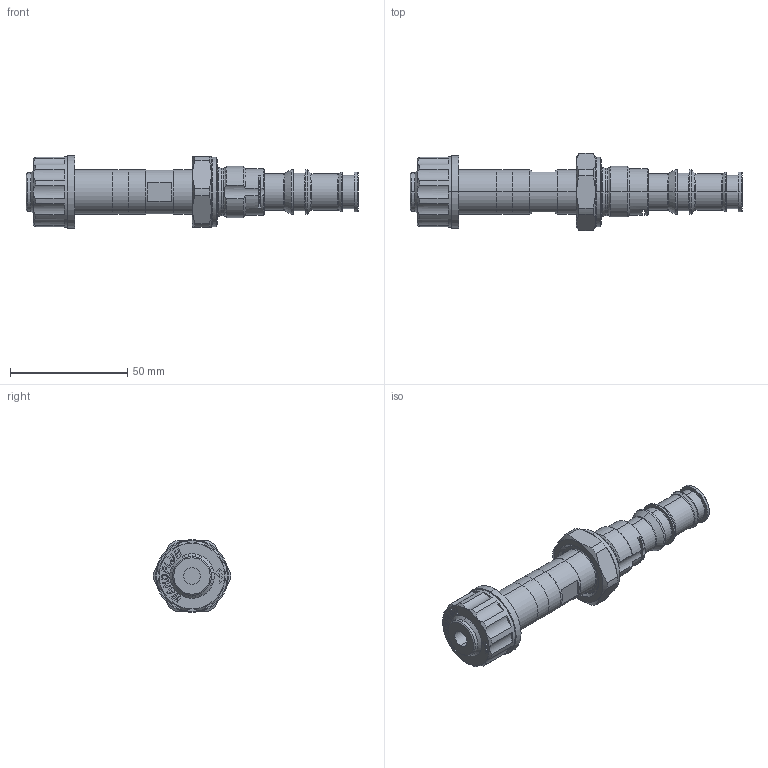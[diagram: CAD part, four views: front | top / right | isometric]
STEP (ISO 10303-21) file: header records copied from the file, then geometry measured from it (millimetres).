
FILE_DESCRIPTION (( 'STEP AP214' ), '1' );
FILE_NAME ('MVPPM22.STEP', '2014-03-19T09:34:37', ( '' ), ( '' ), 'SwSTEP 2.0', 'SolidWorks 2012', '' );
FILE_SCHEMA (( 'AUTOMOTIVE_DESIGN' ));
Length unit declared in the file: millimetre
Products named in the file (1): MVPPM22
Bounding box: 141.5 x 32.98 x 31 mm (x, y, z)
Volume: 44541.2 mm3; surface area: 20966.9 mm2
Topology: 5 solids, 7 shells, 470 faces, 1086 edges, 665 vertices
Faces by surface type: plane 174, cylinder 124, cone 85, torus 65, bspline 22
Entity records: 19783 total; most frequent: CARTESIAN_POINT 3834, DIRECTION 2310, ORIENTED_EDGE 2168, EDGE_CURVE 1084, AXIS2_PLACEMENT_3D 897, VERTEX_POINT 665, EDGE_LOOP 517, VECTOR 516
